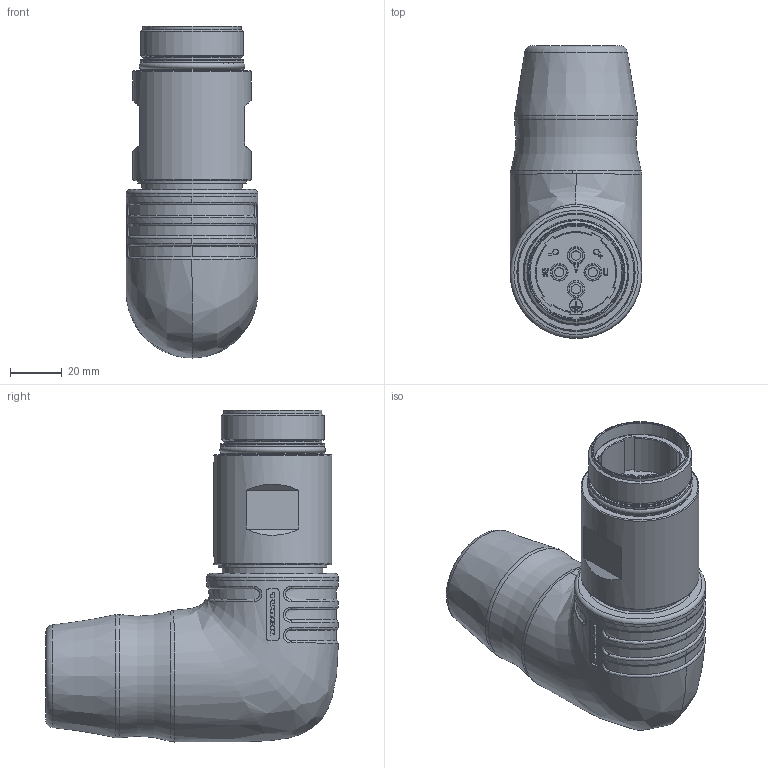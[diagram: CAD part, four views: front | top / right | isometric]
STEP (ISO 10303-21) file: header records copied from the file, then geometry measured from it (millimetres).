
FILE_DESCRIPTION(/* description */ ('PART (MM)'),/* implementation_level */ '2;1');
FILE_NAME(/* name */ 'L:\CAD Inventor\Workspace\Catalogs\CATALOG-TURCK CONNECTORS\HSWM 4024.stp',/* time_stamp */ '2022-02-02T06:43:34-06:00',/* author */ ('RSwans'),/* organization */ (''),/* preprocessor_version */ 'ST-DEVELOPER v16.5',/* originating_system */ 'Autodesk Inventor 2017',/* authorisation */ '');
FILE_SCHEMA (('AUTOMOTIVE_DESIGN { 1 0 10303 214 3 1 1 }'));
Length unit declared in the file: millimetre
Products named in the file (1): Part5
Bounding box: 51 x 113.5 x 128.7 mm (x, y, z)
Volume: 308558.4 mm3; surface area: 45842.7 mm2
Topology: 1 solids, 6 shells, 452 faces, 1251 edges, 849 vertices
Faces by surface type: plane 305, bspline 64, cylinder 51, cone 17, torus 15
Full cylindrical faces by diameter (mm): 2.2 x2, 3.6 x4, 4.86 x1, 5.14 x1, 5.4 x4, 6.8 x4, 21 x1, 31 x2, 38 x2, 38.2 x1, 39 x1, 40 x1, 40.3 x2, 42 x1, 45.8 x1, 51 x1
Entity records: 31743 total; most frequent: CARTESIAN_POINT 20375, ORIENTED_EDGE 2364, DIRECTION 2002, EDGE_CURVE 1182, VERTEX_POINT 837, AXIS2_PLACEMENT_3D 728, EDGE_LOOP 565, LINE 546
